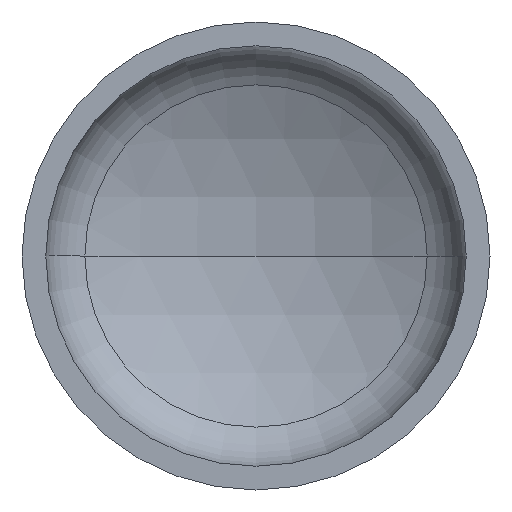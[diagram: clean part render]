
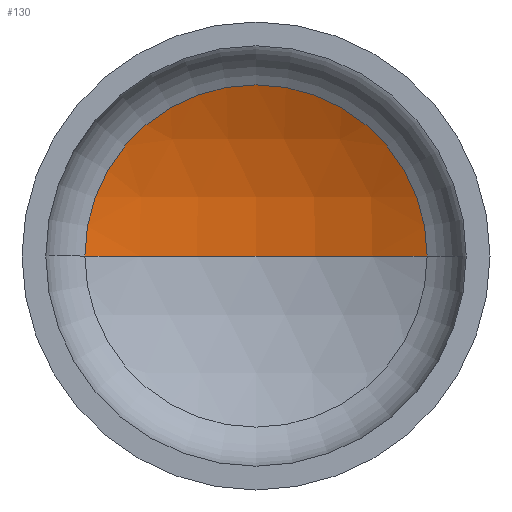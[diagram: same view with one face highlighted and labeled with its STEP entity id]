
A CAD part, front view. The second image highlights one B-rep face of the part: STEP entity #130.
In plain terms, the highlighted spherical face has radius 1040 mm.
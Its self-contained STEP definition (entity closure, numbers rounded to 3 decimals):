
#4 = AXIS2_PLACEMENT_3D ( 'NONE', #393, #366, #241 ) ;
#6 = AXIS2_PLACEMENT_3D ( 'NONE', #185, #291, #112 ) ;
#9 = AXIS2_PLACEMENT_3D ( 'NONE', #292, #114, #317 ) ;
#11 = AXIS2_PLACEMENT_3D ( 'NONE', #360, #388, #213 ) ;
#12 = FACE_OUTER_BOUND ( 'NONE', #129, .T. ) ;
#13 = ORIENTED_EDGE ( 'NONE', *, *, #53, .T. ) ;
#44 = ORIENTED_EDGE ( 'NONE', *, *, #54, .F. ) ;
#51 = EDGE_CURVE ( 'NONE', #56, #321, #227, .T. ) ;
#53 = EDGE_CURVE ( 'NONE', #199, #56, #284, .T. ) ;
#54 = EDGE_CURVE ( 'NONE', #199, #321, #220, .T. ) ;
#56 = VERTEX_POINT ( 'NONE', #107 ) ;
#107 = CARTESIAN_POINT ( 'NONE',  ( 475.429, 297.879, 0. ) ) ;
#112 = DIRECTION ( 'NONE',  ( 1., 0., 0. ) ) ;
#114 = DIRECTION ( 'NONE',  ( 0., 0., -1. ) ) ;
#129 = EDGE_LOOP ( 'NONE', ( #44, #13, #197 ) ) ;
#130 = ADVANCED_FACE ( 'NONE', ( #12 ), #405, .F. ) ;
#185 = CARTESIAN_POINT ( 'NONE',  ( 0., -627.09, 0. ) ) ;
#197 = ORIENTED_EDGE ( 'NONE', *, *, #51, .T. ) ;
#199 = VERTEX_POINT ( 'NONE', #409 ) ;
#213 = DIRECTION ( 'NONE',  ( 1., 0., 0. ) ) ;
#220 = CIRCLE ( 'NONE', #6, 1040. ) ;
#227 = CIRCLE ( 'NONE', #11, 475.429 ) ;
#241 = DIRECTION ( 'NONE',  ( -1., 0., 0. ) ) ;
#284 = CIRCLE ( 'NONE', #9, 1040. ) ;
#287 = CARTESIAN_POINT ( 'NONE',  ( -475.429, 297.879, 0. ) ) ;
#291 = DIRECTION ( 'NONE',  ( 0., 0., 1. ) ) ;
#292 = CARTESIAN_POINT ( 'NONE',  ( 0., -627.09, 0. ) ) ;
#317 = DIRECTION ( 'NONE',  ( -1., 0., 0. ) ) ;
#321 = VERTEX_POINT ( 'NONE', #287 ) ;
#360 = CARTESIAN_POINT ( 'NONE',  ( 0., 297.879, 0. ) ) ;
#366 = DIRECTION ( 'NONE',  ( 0., 0., -1. ) ) ;
#388 = DIRECTION ( 'NONE',  ( 0., -1., 0. ) ) ;
#393 = CARTESIAN_POINT ( 'NONE',  ( 0., -627.09, 0. ) ) ;
#405 = SPHERICAL_SURFACE ( 'NONE', #4, 1040. ) ;
#409 = CARTESIAN_POINT ( 'NONE',  ( 0., 412.91, 0. ) ) ;
